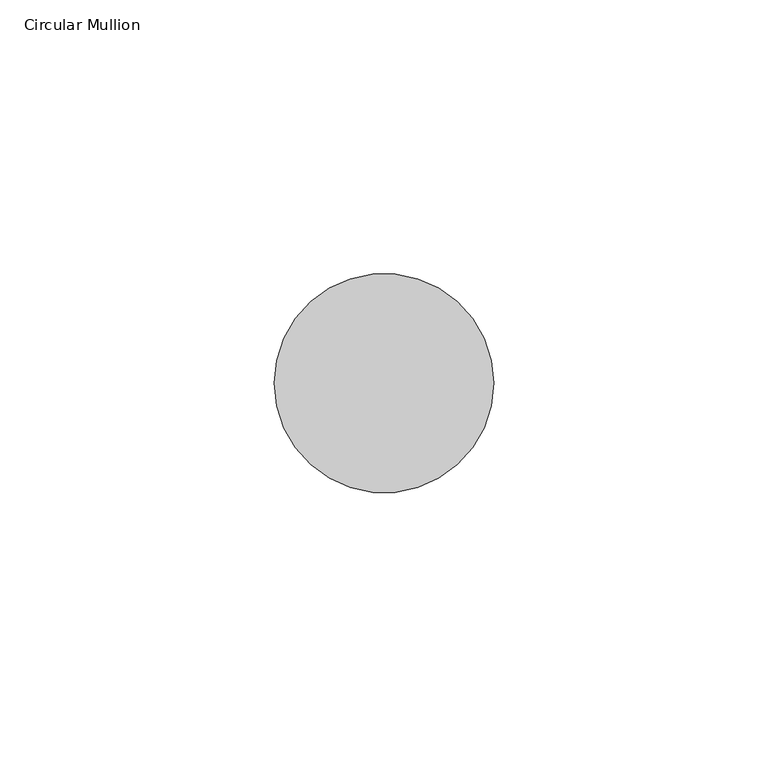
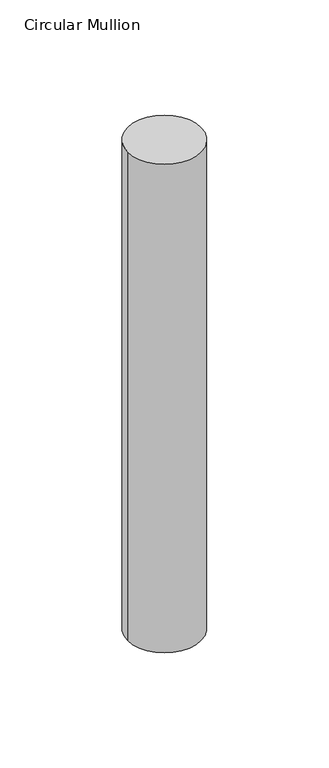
"""IFC4 building model written with IfcOpenShell, lengths in millimetres: member geometry, Circular Mullion : GRADIL 40mm."""

from ifc_helpers import new_model, si_unit, point, frame, frame_2d, origin, place, context, project, spatial, circle_curve, trimmed, segment, composite_curve, outline, extrude, source, transform, mapped, element, save


def circular_mullion_dbe84026(model_context):
    return source(origin(), model_context, "Body", "SweptSolid", [
        extrude(outline(composite_curve([segment(trimmed(circle_curve(frame_2d((-20.0, 0.0)), 20.0), [point((0.0, 0.0))], [point((-40.0, 0.0))], False, "CARTESIAN"), True, "CONTINUOUS"), segment(trimmed(circle_curve(frame_2d((-20.0, 0.0)), 20.0), [point((-40.0, 0.0))], [point((0.0, 0.0))], False, "CARTESIAN"), True, "CONTINUOUS")], self_intersect=False)), frame((0.0, 0.0, -280.0), z_axis=(0.0, 0.0, 1.0), x_axis=(1.0, 0.0, 0.0)), (0.0, 0.0, 1.0), 280.0),
    ])


if __name__ == "__main__":
    model = new_model("IFC4")
    model_context = context("Model", 3, world=origin())
    ifc_project = project(units=[si_unit("LENGTHUNIT", "METRE", prefix="MILLI")], contexts=[model_context])
    site = spatial("IfcSite", under=ifc_project)
    building = spatial("IfcBuilding", under=site)
    placement = place(None, origin())
    circular_mullion_shape = circular_mullion_dbe84026(model_context)
    element("IfcMember", 1, ObjectType="Circular Mullion : GRADIL 40mm", at=placement, inside=building, context=model_context, shape_type="MappedRepresentation", body=[
        mapped(circular_mullion_shape, transform((0.0, 0.0, 0.0), x_axis=(1.0, 0.0, 0.0), y_axis=(0.0, 1.0, 0.0), z_axis=(0.0, 0.0, 1.0))),
    ])
    save(model, "model.ifc")
